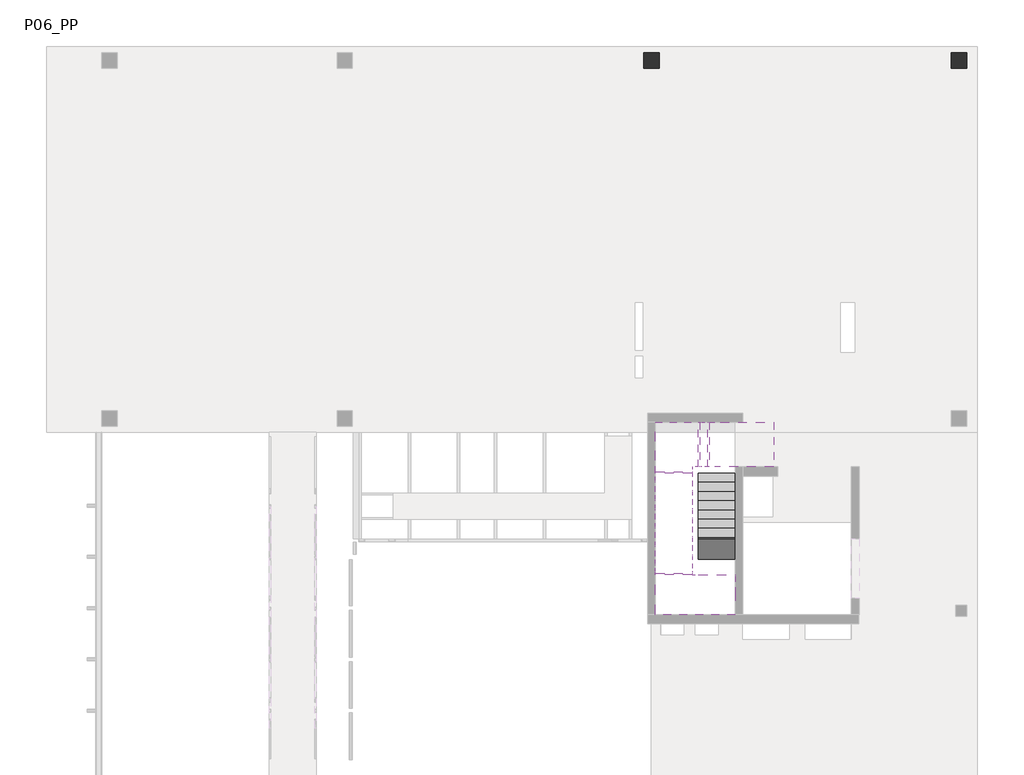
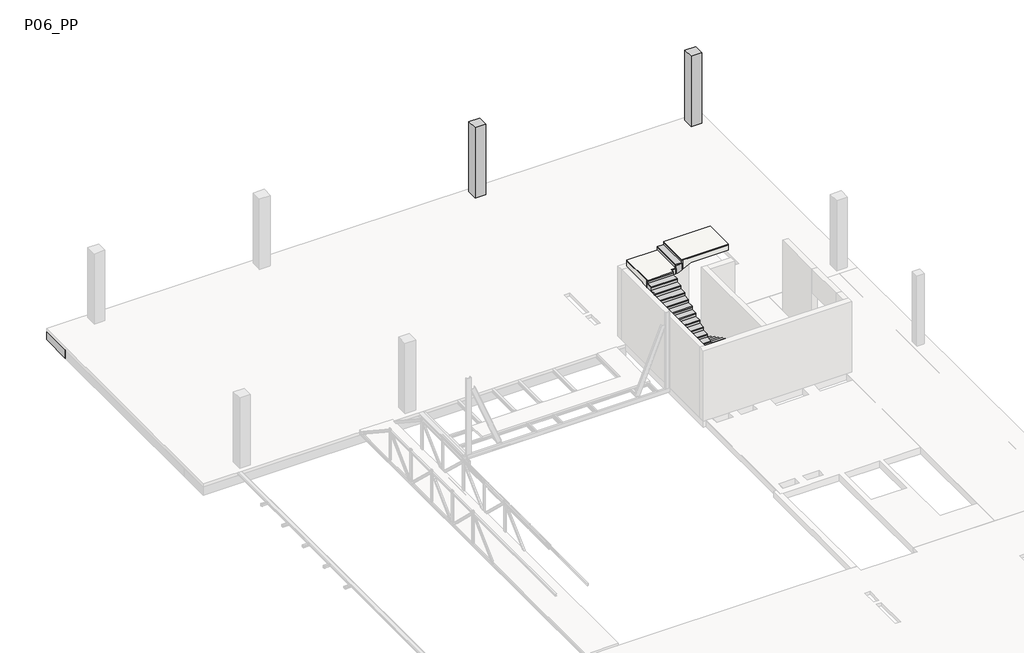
# One storey, part 4 of 4: 8 beams, 3 slabs, 3 stair flights, 2 columns.
"""IFC4 building model written with IfcOpenShell, lengths in millimetres."""

from ifc_helpers import new_model, si_unit, frame, origin, place, context, project, spatial, polyline, outline, extrude, faceted_brep, element, save

model = new_model("IFC4")

# Units and contexts
model_context = context("Model", 3, world=origin())
ifc_project = project(units=[si_unit("LENGTHUNIT", "METRE", prefix="MILLI")], contexts=[model_context])

# Site, building, storey
site = spatial("IfcSite", under=ifc_project)
building = spatial("IfcBuilding", under=site)
storey = spatial("IfcBuildingStorey", under=building, Name="P06_PP", Elevation=29910.0)

# Beams
placement = place(None, origin())
element("IfcBeam", 1, ObjectType="M_Concrete-Rectangular Beam : 1500 x 550mm", at=placement, inside=storey, context=model_context, shape_type="Brep", body=[
    faceted_brep([(-4553.6343046, 26089.4144807, 29360.0), (-33190.2931069, 26089.4144807, 29360.0), (-33190.2931069, 26089.4144807, 29760.0), (-4553.6343046, 26089.4144807, 29760.0), (-33190.2931069, 24589.4144807, 29360.0), (-4553.6343046, 24589.4144807, 29360.0), (-5816.2708415, 24589.4144807, 29360.0), (-6216.2708415, 24589.4144807, 29360.0), (-7482.9375051, 24589.4144807, 29360.0), (-7882.9375051, 24589.4144807, 29360.0), (-9149.6041702, 24589.4144807, 29360.0), (-9549.6041702, 24589.4144807, 29360.0), (-10816.2708336, 24589.4144807, 29360.0), (-11216.2708336, 24589.4144807, 29360.0), (-12482.9374977, 24589.4144807, 29360.0), (-12882.9374977, 24589.4144807, 29360.0), (-14149.604161, 24589.4144807, 29360.0), (-14549.604161, 24589.4144807, 29360.0), (-15816.2708252, 24589.4144807, 29360.0), (-16216.2708252, 24589.4144807, 29360.0), (-17482.9374898, 24589.4144807, 29360.0), (-17882.9374898, 24589.4144807, 29360.0), (-19149.6041539, 24589.4144807, 29360.0), (-19549.6041539, 24589.4144807, 29360.0), (-20816.2708168, 24589.4144807, 29360.0), (-21216.2708168, 24589.4144807, 29360.0), (-22482.9374805, 24589.4144807, 29360.0), (-22882.9374805, 24589.4144807, 29360.0), (-24149.6041453, 24589.4144807, 29360.0), (-24549.6041453, 24589.4144807, 29360.0), (-25816.2708089, 24589.4144807, 29360.0), (-26216.2708089, 24589.4144807, 29360.0), (-27482.9374731, 24589.4144807, 29360.0), (-27882.9374731, 24589.4144807, 29360.0), (-29149.6041367, 24589.4144807, 29360.0), (-29549.6041367, 24589.4144807, 29360.0), (-30816.2708024, 24589.4144807, 29360.0), (-31216.2708024, 24589.4144807, 29360.0), (-32490.2931069, 24589.4144807, 29360.0), (-13265.9144136, 25389.5088736, 29360.0), (-13265.9144127, 25889.5088736, 29360.0), (-13765.9144127, 25889.5088746, 29360.0), (-13765.9144136, 25389.5088746, 29360.0), (-23240.9131369, 25389.5088666, 29360.0), (-23240.9131369, 25889.5088666, 29360.0), (-23740.9131369, 25889.5088666, 29360.0), (-23740.9131369, 25389.5088666, 29360.0), (-30890.9552507, 25389.5088676, 29360.0), (-30890.9552477, 25889.5088676, 29360.0), (-31390.9552477, 25889.5088706, 29360.0), (-31390.9552507, 25389.5088706, 29360.0), (-4553.6343046, 24589.4144807, 29760.0), (-5816.2708415, 24589.4144807, 29760.0), (-6216.2708415, 24589.4144807, 29760.0), (-7482.9375051, 24589.4144807, 29760.0), (-7882.9375051, 24589.4144807, 29760.0), (-9149.6041702, 24589.4144807, 29760.0), (-9549.6041702, 24589.4144807, 29760.0), (-10816.2708336, 24589.4144807, 29760.0), (-11216.2708336, 24589.4144807, 29760.0), (-12482.9374977, 24589.4144807, 29760.0), (-12882.9374977, 24589.4144807, 29760.0), (-14149.604161, 24589.4144807, 29760.0), (-14549.604161, 24589.4144807, 29760.0), (-15816.2708252, 24589.4144807, 29760.0), (-16216.2708252, 24589.4144807, 29760.0), (-17482.9374898, 24589.4144807, 29760.0), (-17882.9374898, 24589.4144807, 29760.0), (-19149.6041539, 24589.4144807, 29760.0), (-19549.6041539, 24589.4144807, 29760.0), (-20816.2708168, 24589.4144807, 29760.0), (-21216.2708168, 24589.4144807, 29760.0), (-22482.9374805, 24589.4144807, 29760.0), (-22882.9374805, 24589.4144807, 29760.0), (-24149.6041453, 24589.4144807, 29760.0), (-24549.6041453, 24589.4144807, 29760.0), (-25816.2708089, 24589.4144807, 29760.0), (-26216.2708089, 24589.4144807, 29760.0), (-27482.9374731, 24589.4144807, 29760.0), (-27882.9374731, 24589.4144807, 29760.0), (-29149.6041367, 24589.4144807, 29760.0), (-29549.6041367, 24589.4144807, 29760.0), (-30816.2708024, 24589.4144807, 29760.0), (-31216.2708024, 24589.4144807, 29760.0), (-32490.2931069, 24589.4144807, 29760.0), (-33190.2931069, 24589.4144807, 29760.0), (-13265.9144136, 25389.5088736, 29610.0), (-13265.9144127, 25889.5088736, 29610.0), (-13765.9144136, 25389.5088746, 29610.0), (-13765.9144127, 25889.5088746, 29610.0), (-23240.9131369, 25389.5088666, 29610.0), (-23240.9131369, 25889.5088666, 29610.0), (-23740.9131369, 25389.5088666, 29610.0), (-23740.9131369, 25889.5088666, 29610.0), (-30890.9552507, 25389.5088676, 29610.0), (-30890.9552477, 25889.5088676, 29610.0), (-31390.9552507, 25389.5088706, 29610.0), (-31390.9552477, 25889.5088706, 29610.0)], [[[0, 1, 2, 3]], [[4, 1, 0, 5, 6, 7, 8, 9, 10, 11, 12, 13, 14, 15, 16, 17, 18, 19, 20, 21, 22, 23, 24, 25, 26, 27, 28, 29, 30, 31, 32, 33, 34, 35, 36, 37, 38], [39, 40, 41, 42], [43, 44, 45, 46], [47, 48, 49, 50]], [[4, 38, 37, 36, 35, 34, 33, 32, 31, 30, 29, 28, 27, 26, 25, 24, 23, 22, 21, 20, 19, 18, 17, 16, 15, 14, 13, 12, 11, 10, 9, 8, 7, 6, 5, 51, 52, 53, 54, 55, 56, 57, 58, 59, 60, 61, 62, 63, 64, 65, 66, 67, 68, 69, 70, 71, 72, 73, 74, 75, 76, 77, 78, 79, 80, 81, 82, 83, 84, 85]], [[1, 4, 85, 2]], [[5, 0, 3, 51]], [[86, 87, 40, 39]], [[88, 86, 39, 42]], [[89, 88, 42, 41]], [[87, 89, 41, 40]], [[87, 86, 88, 89]], [[90, 91, 44, 43]], [[92, 90, 43, 46]], [[93, 92, 46, 45]], [[91, 93, 45, 44]], [[91, 90, 92, 93]], [[94, 95, 48, 47]], [[96, 94, 47, 50]], [[97, 96, 50, 49]], [[95, 97, 49, 48]], [[95, 94, 96, 97]], [[3, 2, 85, 84, 83, 82, 81, 80, 79, 78, 77, 76, 75, 74, 73, 72, 71, 70, 69, 68, 67, 66, 65, 64, 63, 62, 61, 60, 59, 58, 57, 56, 55, 54, 53, 52, 51]]]),
])
element("IfcBeam", 2, ObjectType="M_Concrete-Rectangular Beam : 1640 x 550mm", at=placement, inside=storey, context=model_context, shape_type="Brep", body=[
    faceted_brep([(-4553.6343046, 26089.4144807, 29360.0), (-4553.6343046, 24589.4144807, 29360.0), (-4553.6343046, 15039.4134441, 29360.0), (-4553.6343046, 15039.4134441, 29760.0), (-4553.6343046, 24589.4144807, 29760.0), (-4553.6343046, 26089.4144807, 29760.0), (-2913.6343046, 15039.4134441, 29360.0), (-2913.6343046, 26089.4144807, 29360.0), (-3265.9143674, 25389.5088776, 29360.0), (-3265.9143649, 25889.5088776, 29360.0), (-3765.9143649, 25889.5088801, 29360.0), (-3765.9143674, 25389.5088801, 29360.0), (-2913.6343046, 26089.4144807, 29760.0), (-2913.6343046, 15039.4134441, 29760.0), (-3265.9143674, 25389.5088776, 29610.0), (-3265.9143649, 25889.5088776, 29610.0), (-3765.9143674, 25389.5088801, 29610.0), (-3765.9143649, 25889.5088801, 29610.0)], [[[0, 1, 2, 3, 4, 5]], [[6, 2, 1, 0, 7], [8, 9, 10, 11]], [[6, 7, 12, 13]], [[2, 6, 13, 3]], [[7, 0, 5, 12]], [[14, 15, 9, 8]], [[16, 14, 8, 11]], [[17, 16, 11, 10]], [[15, 17, 10, 9]], [[15, 14, 16, 17]], [[5, 4, 3, 13, 12]]]),
])
element("IfcBeam", 3, ObjectType="M_Concrete-Rectangular Beam : 400 x 550mm", at=placement, inside=storey, context=model_context, shape_type="SweptSolid", body=[
    extrude(outline(polyline([(-14149.604161, 15039.4134441), (-14549.604161, 15039.4134441), (-14549.604161, 24589.4144807), (-14149.604161, 24589.4144807), (-14149.604161, 15039.4134441)])), frame((0.0, 0.0, 29360.0), z_axis=(0.0, 0.0, 1.0), x_axis=(1.0, 0.0, 0.0)), (0.0, 0.0, 1.0), 400.0),
])
element("IfcBeam", 4, ObjectType="M_Concrete-Rectangular Beam : 400 x 550mm", at=placement, inside=storey, context=model_context, shape_type="SweptSolid", body=[
    extrude(outline(polyline([(-12482.9374977, 15039.4134441), (-12882.9374977, 15039.4134441), (-12882.9374977, 24589.4144807), (-12482.9374977, 24589.4144807), (-12482.9374977, 15039.4134441)])), frame((0.0, 0.0, 29360.0), z_axis=(0.0, 0.0, 1.0), x_axis=(1.0, 0.0, 0.0)), (0.0, 0.0, 1.0), 400.0),
])
element("IfcBeam", 5, ObjectType="M_Concrete-Rectangular Beam : 400 x 550mm", at=placement, inside=storey, context=model_context, shape_type="SweptSolid", body=[
    extrude(outline(polyline([(-10816.2708336, 15039.4134441), (-11216.2708336, 15039.4134441), (-11216.2708336, 24589.4144807), (-10816.2708336, 24589.4144807), (-10816.2708336, 15039.4134441)])), frame((0.0, 0.0, 29360.0), z_axis=(0.0, 0.0, 1.0), x_axis=(1.0, 0.0, 0.0)), (0.0, 0.0, 1.0), 400.0),
])
element("IfcBeam", 6, ObjectType="M_Concrete-Rectangular Beam : 400 x 550mm", at=placement, inside=storey, context=model_context, shape_type="SweptSolid", body=[
    extrude(outline(polyline([(-9149.6041702, 15039.4134441), (-9549.6041702, 15039.4134441), (-9549.6041702, 24589.4144807), (-9149.6041702, 24589.4144807), (-9149.6041702, 15039.4134441)])), frame((0.0, 0.0, 29360.0), z_axis=(0.0, 0.0, 1.0), x_axis=(1.0, 0.0, 0.0)), (0.0, 0.0, 1.0), 400.0),
])
element("IfcBeam", 7, ObjectType="M_Concrete-Rectangular Beam : 400 x 550mm", at=placement, inside=storey, context=model_context, shape_type="SweptSolid", body=[
    extrude(outline(polyline([(-7482.9375051, 15039.4134441), (-7882.9375051, 15039.4134441), (-7882.9375051, 24589.4144807), (-7482.9375051, 24589.4144807), (-7482.9375051, 15039.4134441)])), frame((0.0, 0.0, 29360.0), z_axis=(0.0, 0.0, 1.0), x_axis=(1.0, 0.0, 0.0)), (0.0, 0.0, 1.0), 400.0),
])
element("IfcBeam", 8, ObjectType="M_Concrete-Rectangular Beam : 400 x 550mm", at=placement, inside=storey, context=model_context, shape_type="SweptSolid", body=[
    extrude(outline(polyline([(-5816.2708415, 15039.4134441), (-6216.2708415, 15039.4134441), (-6216.2708415, 24589.4144807), (-5816.2708415, 24589.4144807), (-5816.2708415, 15039.4134441)])), frame((0.0, 0.0, 29360.0), z_axis=(0.0, 0.0, 1.0), x_axis=(1.0, 0.0, 0.0)), (0.0, 0.0, 1.0), 400.0),
])

# Columns
element("IfcColumn", 9, ObjectType="Concrete-Rectangular-Column : Pilar_Rectangular-Formigo-500x500", at=placement, inside=storey, context=model_context, shape_type="Brep", body=[
    faceted_brep([(-3265.7676517, 25889.9726341, 29910.0), (-3265.7676524, 25389.9726341, 29910.0), (-3765.7676524, 25389.9726349, 29910.0), (-3765.7676517, 25889.9726349, 29910.0), (-3265.7676517, 25889.9726341, 33360.0), (-3265.7676524, 25389.9726341, 33360.0), (-3265.7676524, 25389.9726341, 33110.0), (-3265.7676517, 25889.9726341, 33110.0), (-3765.7676524, 25389.9726349, 33360.0), (-3765.7676524, 25389.9726349, 33110.0), (-3765.7676517, 25889.9726349, 33360.0), (-3765.7676517, 25889.9726349, 33110.0)], [[[0, 1, 2, 3]], [[4, 5, 6, 1, 0, 7]], [[5, 8, 9, 2, 1, 6]], [[8, 10, 11, 3, 2, 9]], [[10, 4, 7, 0, 3, 11]], [[4, 10, 8, 5]]]),
])
element("IfcColumn", 10, ObjectType="Concrete-Rectangular-Column : Pilar_Rectangular-Formigo-500x500", at=placement, inside=storey, context=model_context, shape_type="Brep", body=[
    faceted_brep([(-13265.3183824, 25889.9726282, 29910.0), (-13265.3183805, 25389.9726282, 29910.0), (-13765.3183805, 25389.9726263, 29910.0), (-13765.3183824, 25889.9726263, 29910.0), (-13265.3183824, 25889.9726282, 33360.0), (-13265.3183805, 25389.9726282, 33360.0), (-13265.3183805, 25389.9726282, 33110.0), (-13265.3183824, 25889.9726282, 33110.0), (-13765.3183805, 25389.9726263, 33360.0), (-13765.3183805, 25389.9726263, 33110.0), (-13765.3183824, 25889.9726263, 33360.0), (-13765.3183824, 25889.9726263, 33110.0)], [[[0, 1, 2, 3]], [[4, 5, 6, 1, 0, 7]], [[5, 8, 9, 2, 1, 6]], [[8, 10, 11, 3, 2, 9]], [[10, 4, 7, 0, 3, 11]], [[4, 10, 8, 5]]]),
])

# Slabs
element("IfcSlab", 11, ObjectType="250mm_Thickness", at=placement, inside=storey, context=model_context, shape_type="SolidModel", body=[
    faceted_brep([(-10790.2146087, 8864.8932827, 31829.2307692), (-11990.2146087, 8864.8932827, 31829.2307692), (-11990.2146087, 8914.8932827, 31829.2307692), (-12190.3216429, 8914.8932827, 31829.2307692), (-12190.3216429, 8964.8932827, 31829.2307692), (-13390.3216429, 8964.8932827, 31829.2307692), (-13390.3216429, 8914.8932827, 31829.2307692), (-13390.3216429, 7614.8960687, 31829.2307692), (-10790.2146087, 7614.8960687, 31829.2307692), (-10790.2146087, 8503.8580206, 31829.2307692), (-10790.2146087, 8864.8932827, 31673.4615385), (-10790.2146087, 8864.8932827, 31391.7701524), (-11990.2146087, 8864.8932827, 31391.7701524), (-11990.2146087, 8864.8932827, 31579.2307692), (-11990.2146087, 8864.8932827, 31673.4615385), (-11990.2146087, 8914.8932827, 31579.2307692), (-12190.3216429, 8914.8932827, 31579.2307692), (-12190.3216429, 8964.8932827, 31579.2307692), (-13390.3216429, 8964.8932827, 31579.2307692), (-13390.3216429, 8914.8932827, 31579.2307692), (-13390.3216429, 7614.8960687, 31579.2307692), (-10790.2146087, 7614.8960687, 31579.2307692), (-10790.2146087, 8503.8580206, 31579.2307692), (-11990.2146087, 8503.8580206, 31579.2307692)], [[[0, 1, 2, 3, 4, 5, 6, 7, 8, 9]], [[1, 0, 10, 11, 12, 13, 14]], [[2, 1, 14, 13, 15]], [[3, 2, 15, 16]], [[4, 3, 16, 17]], [[5, 4, 17, 18]], [[6, 5, 18, 19]], [[7, 6, 19, 20]], [[8, 7, 20, 21]], [[11, 10, 0, 9, 8, 21, 22]], [[23, 22, 21, 20, 19, 18, 17, 16, 15, 13]], [[22, 23, 12, 11]], [[23, 13, 12]]]),
    extrude(outline(polyline([(-10790.2146087, 8914.8932827), (-10790.2146087, 7614.8960687), (-13390.3216429, 7614.8960687), (-13390.3216429, 8914.8932827), (-12190.3216429, 8914.8932827), (-11990.2146087, 8914.8932827), (-10790.2146087, 8914.8932827)])), frame((0.0, 0.0, 31829.2307692), z_axis=(0.0, 0.0, 1.0), x_axis=(1.0, 0.0, 0.0)), (0.0, 0.0, 1.0), 50.0),
])
element("IfcSlab", 12, ObjectType="250mm_Thickness", at=placement, inside=storey, context=model_context, shape_type="SolidModel", body=[
    faceted_brep([(-13390.3216429, 12264.8932827, 33698.4615385), (-12190.3216429, 12264.8932827, 33698.4615385), (-12190.3216429, 12414.8934136, 33698.4615385), (-11990.2146087, 12414.8934136, 33698.4615385), (-11940.2146087, 12414.8934136, 33698.4615385), (-11940.2146087, 13864.8960687, 33698.4615385), (-11990.2146087, 13864.8960687, 33698.4615385), (-13390.3216429, 13864.8960687, 33698.4615385), (-13390.3216429, 12625.9285447, 33698.4615385), (-13390.3216429, 12264.8932827, 33542.6923077), (-13390.3216429, 12264.8932827, 33261.0009216), (-12190.3216429, 12264.8932827, 33261.0009216), (-12190.3216429, 12264.8932827, 33542.6923077), (-12190.3216429, 12625.9285447, 33448.4615385), (-12190.3216429, 12414.8934136, 33448.4615385), (-11990.2146087, 12414.8934136, 33448.4615385), (-11940.2146087, 12414.8934136, 33448.4615385), (-11940.2146087, 13864.8960687, 33448.4615385), (-11990.2146087, 13864.8960687, 33448.4615385), (-13390.3216429, 13864.8960687, 33448.4615385), (-13390.3216429, 12625.9285447, 33448.4615385)], [[[0, 1, 2, 3, 4, 5, 6, 7, 8]], [[1, 0, 9, 10, 11, 12]], [[2, 1, 12, 11, 13, 14]], [[3, 2, 14, 15]], [[4, 3, 15, 16]], [[5, 4, 16, 17]], [[6, 5, 17, 18]], [[7, 6, 18, 19]], [[10, 9, 0, 8, 7, 19, 20]], [[13, 20, 19, 18, 17, 16, 15, 14]], [[20, 13, 11, 10]]]),
    extrude(outline(polyline([(-13390.3216429, 12214.8932827), (-13390.3216429, 13864.8960687), (-11990.2146087, 13864.8960687), (-11990.2146087, 12414.8934136), (-12190.3216429, 12414.8934136), (-12190.3216429, 12214.8932827), (-13390.3216429, 12214.8932827)])), frame((0.0, 0.0, 33698.4615385), z_axis=(0.0, 0.0, 1.0), x_axis=(1.0, 0.0, 0.0)), (0.0, 0.0, 1.0), 50.0),
])
element("IfcSlab", 13, ObjectType="250mm_Thickness", at=placement, inside=storey, context=model_context, shape_type="SolidModel", body=[
    faceted_brep([(-11640.2146087, 13864.8960687, 34010.0), (-11640.2146087, 12414.8934136, 34010.0), (-11279.1793466, 12414.8934136, 34010.0), (-9540.5635412, 12414.8934136, 34010.0), (-9540.5635412, 13864.8960687, 34010.0), (-11279.1793466, 13864.8960687, 34010.0), (-11640.2146087, 12414.8934136, 33854.2307692), (-11640.2146087, 12414.8934136, 33572.5393832), (-11279.1793466, 12414.8934136, 33760.0), (-9540.5635412, 12414.8934136, 33760.0), (-9540.5635412, 13864.8960687, 33760.0), (-11640.2146087, 13864.8960687, 33572.5393832), (-11640.2146087, 13864.8960687, 33854.2307692), (-11279.1793466, 13864.8960687, 33760.0)], [[[0, 1, 2, 3, 4, 5]], [[1, 6, 7, 8, 9, 3, 2]], [[4, 3, 9, 10]], [[11, 12, 0, 5, 4, 10, 13]], [[8, 13, 10, 9]], [[1, 0, 12, 11, 7, 6]], [[13, 8, 7, 11]]]),
    extrude(outline(polyline([(-11690.2146087, 13864.8960687), (-9540.5635412, 13864.8960687), (-9540.5635412, 12414.8934136), (-11690.2146087, 12414.8934136), (-11690.2146087, 13864.8960687)])), frame((0.0, 0.0, 34010.0), z_axis=(0.0, 0.0, 1.0), x_axis=(1.0, 0.0, 0.0)), (0.0, 0.0, 1.0), 50.0),
])

# Stair flights
element("IfcStairFlight", 14, ObjectType="250mm Depth", at=placement, inside=storey, context=model_context, shape_type="SolidModel", body=[
    faceted_brep([(-10790.2146087, 11864.8932827, 30115.7692308), (-10790.2146087, 12164.8932827, 30115.7692308), (-11990.2146087, 12164.8932827, 30115.7692308), (-11990.2146087, 11864.8932827, 30115.7692308), (-10790.2146087, 11864.8932827, 30010.0), (-10790.2146087, 12164.8932827, 30010.0), (-11990.2146087, 12164.8932827, 30010.0), (-11990.2146087, 11864.8932827, 30010.0), (-10790.2146087, 11564.8932827, 30271.5384615), (-10790.2146087, 11864.8932827, 30271.5384615), (-11990.2146087, 11864.8932827, 30271.5384615), (-11990.2146087, 11564.8932827, 30271.5384615), (-10790.2146087, 11564.8932827, 30010.0), (-11990.2146087, 11564.8932827, 30010.0), (-10790.2146087, 11264.8932827, 30427.3076923), (-10790.2146087, 11564.8932827, 30427.3076923), (-11990.2146087, 11564.8932827, 30427.3076923), (-11990.2146087, 11264.8932827, 30427.3076923), (-10790.2146087, 11264.8932827, 30145.6163062), (-10790.2146087, 11526.0802429, 30010.0), (-11990.2146087, 11526.0802429, 30010.0), (-11990.2146087, 11264.8932827, 30145.6163062), (-10790.2146087, 10964.8932827, 30583.0769231), (-10790.2146087, 11264.8932827, 30583.0769231), (-11990.2146087, 11264.8932827, 30583.0769231), (-11990.2146087, 10964.8932827, 30583.0769231), (-10790.2146087, 10964.8932827, 30301.385537), (-11990.2146087, 10964.8932827, 30301.385537), (-10790.2146087, 10664.8932827, 30738.8461538), (-10790.2146087, 10964.8932827, 30738.8461538), (-11990.2146087, 10964.8932827, 30738.8461538), (-11990.2146087, 10664.8932827, 30738.8461538), (-10790.2146087, 10664.8932827, 30457.1547678), (-11990.2146087, 10664.8932827, 30457.1547678), (-10790.2146087, 10364.8932827, 30894.6153846), (-10790.2146087, 10664.8932827, 30894.6153846), (-11990.2146087, 10664.8932827, 30894.6153846), (-11990.2146087, 10364.8932827, 30894.6153846), (-10790.2146087, 10364.8932827, 30612.9239986), (-11990.2146087, 10364.8932827, 30612.9239986), (-10790.2146087, 10064.8932827, 31050.3846154), (-10790.2146087, 10364.8932827, 31050.3846154), (-11990.2146087, 10364.8932827, 31050.3846154), (-11990.2146087, 10064.8932827, 31050.3846154), (-10790.2146087, 10064.8932827, 30768.6932293), (-11990.2146087, 10064.8932827, 30768.6932293), (-10790.2146087, 9764.8932827, 31206.1538462), (-10790.2146087, 10064.8932827, 31206.1538462), (-11990.2146087, 10064.8932827, 31206.1538462), (-11990.2146087, 9764.8932827, 31206.1538462), (-10790.2146087, 9764.8932827, 30924.4624601), (-11990.2146087, 9764.8932827, 30924.4624601), (-10790.2146087, 9464.8932827, 31361.9230769), (-10790.2146087, 9764.8932827, 31361.9230769), (-11990.2146087, 9764.8932827, 31361.9230769), (-11990.2146087, 9464.8932827, 31361.9230769), (-10790.2146087, 9464.8932827, 31080.2316909), (-11990.2146087, 9464.8932827, 31080.2316909), (-10790.2146087, 9164.8932827, 31517.6923077), (-10790.2146087, 9464.8932827, 31517.6923077), (-11990.2146087, 9464.8932827, 31517.6923077), (-11990.2146087, 9164.8932827, 31517.6923077), (-10790.2146087, 9164.8932827, 31236.0009216), (-11990.2146087, 9164.8932827, 31236.0009216), (-10790.2146087, 9164.8932827, 31673.4615385), (-11990.2146087, 9164.8932827, 31673.4615385), (-11990.2146087, 8914.8932827, 31673.4615385), (-11990.2146087, 8864.8932827, 31673.4615385), (-10790.2146087, 8864.8932827, 31673.4615385), (-10790.2146087, 8914.8932827, 31673.4615385), (-10790.2146087, 8864.8932827, 31391.7701524), (-10790.2146087, 8914.8932827, 31365.8086139), (-11990.2146087, 8864.8932827, 31391.7701524), (-11990.2146087, 8864.8932827, 31579.2307692)], [[[0, 1, 2, 3]], [[1, 0, 4, 5]], [[2, 1, 5, 6]], [[3, 2, 6, 7]], [[8, 9, 10, 11]], [[4, 0, 9, 8, 12]], [[0, 3, 10, 9]], [[3, 7, 13, 11, 10]], [[14, 15, 16, 17]], [[12, 8, 15, 14, 18, 19]], [[8, 11, 16, 15]], [[11, 13, 20, 21, 17, 16]], [[22, 23, 24, 25]], [[23, 22, 26, 18, 14]], [[14, 17, 24, 23]], [[25, 24, 17, 21, 27]], [[28, 29, 30, 31]], [[29, 28, 32, 26, 22]], [[22, 25, 30, 29]], [[31, 30, 25, 27, 33]], [[34, 35, 36, 37]], [[35, 34, 38, 32, 28]], [[28, 31, 36, 35]], [[37, 36, 31, 33, 39]], [[40, 41, 42, 43]], [[41, 40, 44, 38, 34]], [[34, 37, 42, 41]], [[43, 42, 37, 39, 45]], [[46, 47, 48, 49]], [[47, 46, 50, 44, 40]], [[40, 43, 48, 47]], [[49, 48, 43, 45, 51]], [[52, 53, 54, 55]], [[53, 52, 56, 50, 46]], [[46, 49, 54, 53]], [[55, 54, 49, 51, 57]], [[58, 59, 60, 61]], [[59, 58, 62, 56, 52]], [[52, 55, 60, 59]], [[61, 60, 55, 57, 63]], [[64, 65, 66, 67, 68, 69]], [[58, 64, 69, 68, 70, 71, 62]], [[58, 61, 65, 64]], [[65, 61, 63, 72, 73, 67, 66]], [[68, 67, 73, 72, 70]], [[5, 4, 12, 19, 20, 13, 7, 6]], [[20, 19, 18, 26, 32, 38, 44, 50, 56, 62, 71, 70, 72, 63, 57, 51, 45, 39, 33, 27, 21]]]),
    extrude(outline(polyline([(-11990.2146087, 12164.8932827), (-11990.2146087, 12214.8932827), (-10790.2146087, 12214.8932827), (-10790.2146087, 12164.8932827), (-11990.2146087, 12164.8932827)])), frame((0.0, 0.0, 30010.0), z_axis=(0.0, 0.0, 1.0), x_axis=(1.0, 0.0, 0.0)), (0.0, 0.0, 1.0), 105.7692308),
    extrude(outline(polyline([(-10790.2146087, 11914.8932827), (-11990.2146087, 11914.8932827), (-11990.2146087, 12214.8932827), (-10790.2146087, 12214.8932827), (-10790.2146087, 11914.8932827)])), frame((0.0, 0.0, 30115.7692308), z_axis=(0.0, 0.0, 1.0), x_axis=(1.0, 0.0, 0.0)), (0.0, 0.0, 1.0), 50.0),
    extrude(outline(polyline([(-11990.2146087, 11864.8932827), (-11990.2146087, 11914.8932827), (-10790.2146087, 11914.8932827), (-10790.2146087, 11864.8932827), (-11990.2146087, 11864.8932827)])), frame((0.0, 0.0, 30115.7692308), z_axis=(0.0, 0.0, 1.0), x_axis=(1.0, 0.0, 0.0)), (0.0, 0.0, 1.0), 155.7692308),
    extrude(outline(polyline([(-10790.2146087, 11614.8932827), (-11990.2146087, 11614.8932827), (-11990.2146087, 11914.8932827), (-10790.2146087, 11914.8932827), (-10790.2146087, 11614.8932827)])), frame((0.0, 0.0, 30271.5384615), z_axis=(0.0, 0.0, 1.0), x_axis=(1.0, 0.0, 0.0)), (0.0, 0.0, 1.0), 50.0),
    extrude(outline(polyline([(-11990.2146087, 11564.8932827), (-11990.2146087, 11614.8932827), (-10790.2146087, 11614.8932827), (-10790.2146087, 11564.8932827), (-11990.2146087, 11564.8932827)])), frame((0.0, 0.0, 30271.5384615), z_axis=(0.0, 0.0, 1.0), x_axis=(1.0, 0.0, 0.0)), (0.0, 0.0, 1.0), 155.7692308),
    extrude(outline(polyline([(-10790.2146087, 11314.8932827), (-11990.2146087, 11314.8932827), (-11990.2146087, 11614.8932827), (-10790.2146087, 11614.8932827), (-10790.2146087, 11314.8932827)])), frame((0.0, 0.0, 30427.3076923), z_axis=(0.0, 0.0, 1.0), x_axis=(1.0, 0.0, 0.0)), (0.0, 0.0, 1.0), 50.0),
    extrude(outline(polyline([(-11990.2146087, 11264.8932827), (-11990.2146087, 11314.8932827), (-10790.2146087, 11314.8932827), (-10790.2146087, 11264.8932827), (-11990.2146087, 11264.8932827)])), frame((0.0, 0.0, 30427.3076923), z_axis=(0.0, 0.0, 1.0), x_axis=(1.0, 0.0, 0.0)), (0.0, 0.0, 1.0), 155.7692308),
    extrude(outline(polyline([(-10790.2146087, 11014.8932827), (-11990.2146087, 11014.8932827), (-11990.2146087, 11314.8932827), (-10790.2146087, 11314.8932827), (-10790.2146087, 11014.8932827)])), frame((0.0, 0.0, 30583.0769231), z_axis=(0.0, 0.0, 1.0), x_axis=(1.0, 0.0, 0.0)), (0.0, 0.0, 1.0), 50.0),
    extrude(outline(polyline([(-11990.2146087, 10964.8932827), (-11990.2146087, 11014.8932827), (-10790.2146087, 11014.8932827), (-10790.2146087, 10964.8932827), (-11990.2146087, 10964.8932827)])), frame((0.0, 0.0, 30583.0769231), z_axis=(0.0, 0.0, 1.0), x_axis=(1.0, 0.0, 0.0)), (0.0, 0.0, 1.0), 155.7692308),
    extrude(outline(polyline([(-10790.2146087, 10714.8932827), (-11990.2146087, 10714.8932827), (-11990.2146087, 11014.8932827), (-10790.2146087, 11014.8932827), (-10790.2146087, 10714.8932827)])), frame((0.0, 0.0, 30738.8461538), z_axis=(0.0, 0.0, 1.0), x_axis=(1.0, 0.0, 0.0)), (0.0, 0.0, 1.0), 50.0),
    extrude(outline(polyline([(-11990.2146087, 10664.8932827), (-11990.2146087, 10714.8932827), (-10790.2146087, 10714.8932827), (-10790.2146087, 10664.8932827), (-11990.2146087, 10664.8932827)])), frame((0.0, 0.0, 30738.8461538), z_axis=(0.0, 0.0, 1.0), x_axis=(1.0, 0.0, 0.0)), (0.0, 0.0, 1.0), 155.7692308),
    extrude(outline(polyline([(-10790.2146087, 10414.8932827), (-11990.2146087, 10414.8932827), (-11990.2146087, 10714.8932827), (-10790.2146087, 10714.8932827), (-10790.2146087, 10414.8932827)])), frame((0.0, 0.0, 30894.6153846), z_axis=(0.0, 0.0, 1.0), x_axis=(1.0, 0.0, 0.0)), (0.0, 0.0, 1.0), 50.0),
    extrude(outline(polyline([(-11990.2146087, 10364.8932827), (-11990.2146087, 10414.8932827), (-10790.2146087, 10414.8932827), (-10790.2146087, 10364.8932827), (-11990.2146087, 10364.8932827)])), frame((0.0, 0.0, 30894.6153846), z_axis=(0.0, 0.0, 1.0), x_axis=(1.0, 0.0, 0.0)), (0.0, 0.0, 1.0), 155.7692308),
    extrude(outline(polyline([(-10790.2146087, 10114.8932827), (-11990.2146087, 10114.8932827), (-11990.2146087, 10414.8932827), (-10790.2146087, 10414.8932827), (-10790.2146087, 10114.8932827)])), frame((0.0, 0.0, 31050.3846154), z_axis=(0.0, 0.0, 1.0), x_axis=(1.0, 0.0, 0.0)), (0.0, 0.0, 1.0), 50.0),
    extrude(outline(polyline([(-11990.2146087, 10064.8932827), (-11990.2146087, 10114.8932827), (-10790.2146087, 10114.8932827), (-10790.2146087, 10064.8932827), (-11990.2146087, 10064.8932827)])), frame((0.0, 0.0, 31050.3846154), z_axis=(0.0, 0.0, 1.0), x_axis=(1.0, 0.0, 0.0)), (0.0, 0.0, 1.0), 155.7692308),
    extrude(outline(polyline([(-10790.2146087, 9814.8932827), (-11990.2146087, 9814.8932827), (-11990.2146087, 10114.8932827), (-10790.2146087, 10114.8932827), (-10790.2146087, 9814.8932827)])), frame((0.0, 0.0, 31206.1538462), z_axis=(0.0, 0.0, 1.0), x_axis=(1.0, 0.0, 0.0)), (0.0, 0.0, 1.0), 50.0),
    extrude(outline(polyline([(-11990.2146087, 9764.8932827), (-11990.2146087, 9814.8932827), (-10790.2146087, 9814.8932827), (-10790.2146087, 9764.8932827), (-11990.2146087, 9764.8932827)])), frame((0.0, 0.0, 31206.1538462), z_axis=(0.0, 0.0, 1.0), x_axis=(1.0, 0.0, 0.0)), (0.0, 0.0, 1.0), 155.7692308),
    extrude(outline(polyline([(-10790.2146087, 9514.8932827), (-11990.2146087, 9514.8932827), (-11990.2146087, 9814.8932827), (-10790.2146087, 9814.8932827), (-10790.2146087, 9514.8932827)])), frame((0.0, 0.0, 31361.9230769), z_axis=(0.0, 0.0, 1.0), x_axis=(1.0, 0.0, 0.0)), (0.0, 0.0, 1.0), 50.0),
    extrude(outline(polyline([(-11990.2146087, 9464.8932827), (-11990.2146087, 9514.8932827), (-10790.2146087, 9514.8932827), (-10790.2146087, 9464.8932827), (-11990.2146087, 9464.8932827)])), frame((0.0, 0.0, 31361.9230769), z_axis=(0.0, 0.0, 1.0), x_axis=(1.0, 0.0, 0.0)), (0.0, 0.0, 1.0), 155.7692308),
    extrude(outline(polyline([(-10790.2146087, 9214.8932827), (-11990.2146087, 9214.8932827), (-11990.2146087, 9514.8932827), (-10790.2146087, 9514.8932827), (-10790.2146087, 9214.8932827)])), frame((0.0, 0.0, 31517.6923077), z_axis=(0.0, 0.0, 1.0), x_axis=(1.0, 0.0, 0.0)), (0.0, 0.0, 1.0), 50.0),
    extrude(outline(polyline([(-11990.2146087, 9164.8932827), (-11990.2146087, 9214.8932827), (-10790.2146087, 9214.8932827), (-10790.2146087, 9164.8932827), (-11990.2146087, 9164.8932827)])), frame((0.0, 0.0, 31517.6923077), z_axis=(0.0, 0.0, 1.0), x_axis=(1.0, 0.0, 0.0)), (0.0, 0.0, 1.0), 155.7692308),
    extrude(outline(polyline([(-11990.2146087, 8864.8932827), (-11990.2146087, 8914.8932827), (-10790.2146087, 8914.8932827), (-10790.2146087, 8864.8932827), (-11990.2146087, 8864.8932827)])), frame((0.0, 0.0, 31673.4615385), z_axis=(0.0, 0.0, 1.0), x_axis=(1.0, 0.0, 0.0)), (0.0, 0.0, 1.0), 155.7692308),
    extrude(outline(polyline([(-10790.2146087, 8914.8932827), (-11990.2146087, 8914.8932827), (-11990.2146087, 9214.8932827), (-10790.2146087, 9214.8932827), (-10790.2146087, 8914.8932827)])), frame((0.0, 0.0, 31673.4615385), z_axis=(0.0, 0.0, 1.0), x_axis=(1.0, 0.0, 0.0)), (0.0, 0.0, 1.0), 50.0),
])
element("IfcStairFlight", 15, ObjectType="250mm Depth", at=placement, inside=storey, context=model_context, shape_type="SolidModel", body=[
    faceted_brep([(-13390.3216429, 8964.8932827, 31985.0), (-12190.3216429, 8964.8932827, 31985.0), (-12190.3216429, 9025.9285447, 31985.0), (-12190.3216429, 9264.8932827, 31985.0), (-13390.3216429, 9264.8932827, 31985.0), (-13390.3216429, 9025.9285447, 31985.0), (-13390.3216429, 9264.8932827, 31703.3086139), (-13390.3216429, 9025.9285447, 31579.2307692), (-13390.3216429, 8964.8932827, 31579.2307692), (-13390.3216429, 8964.8932827, 31829.2307692), (-12190.3216429, 8964.8932827, 31579.2307692), (-12190.3216429, 8964.8932827, 31829.2307692), (-12190.3216429, 9025.9285447, 31579.2307692), (-12190.3216429, 9264.8932827, 31703.3086139), (-13390.3216429, 9564.8932827, 32140.7692308), (-13390.3216429, 9264.8932827, 32140.7692308), (-12190.3216429, 9264.8932827, 32140.7692308), (-12190.3216429, 9564.8932827, 32140.7692308), (-13390.3216429, 9564.8932827, 31859.0778447), (-12190.3216429, 9564.8932827, 31859.0778447), (-13390.3216429, 9864.8932827, 32296.5384615), (-13390.3216429, 9564.8932827, 32296.5384615), (-12190.3216429, 9564.8932827, 32296.5384615), (-12190.3216429, 9864.8932827, 32296.5384615), (-13390.3216429, 9864.8932827, 32014.8470755), (-12190.3216429, 9864.8932827, 32014.8470755), (-13390.3216429, 10164.8932827, 32452.3076923), (-13390.3216429, 9864.8932827, 32452.3076923), (-12190.3216429, 9864.8932827, 32452.3076923), (-12190.3216429, 10164.8932827, 32452.3076923), (-13390.3216429, 10164.8932827, 32170.6163062), (-12190.3216429, 10164.8932827, 32170.6163062), (-13390.3216429, 10464.8932827, 32608.0769231), (-13390.3216429, 10164.8932827, 32608.0769231), (-12190.3216429, 10164.8932827, 32608.0769231), (-12190.3216429, 10464.8932827, 32608.0769231), (-13390.3216429, 10464.8932827, 32326.385537), (-12190.3216429, 10464.8932827, 32326.385537), (-13390.3216429, 10764.8932827, 32763.8461538), (-13390.3216429, 10464.8932827, 32763.8461538), (-12190.3216429, 10464.8932827, 32763.8461538), (-12190.3216429, 10764.8932827, 32763.8461538), (-13390.3216429, 10764.8932827, 32482.1547678), (-12190.3216429, 10764.8932827, 32482.1547678), (-13390.3216429, 11064.8932827, 32919.6153846), (-13390.3216429, 10764.8932827, 32919.6153846), (-12190.3216429, 10764.8932827, 32919.6153846), (-12190.3216429, 11064.8932827, 32919.6153846), (-13390.3216429, 11064.8932827, 32637.9239986), (-12190.3216429, 11064.8932827, 32637.9239986), (-13390.3216429, 11364.8932827, 33075.3846154), (-13390.3216429, 11064.8932827, 33075.3846154), (-12190.3216429, 11064.8932827, 33075.3846154), (-12190.3216429, 11364.8932827, 33075.3846154), (-13390.3216429, 11364.8932827, 32793.6932293), (-12190.3216429, 11364.8932827, 32793.6932293), (-13390.3216429, 11664.8932827, 33231.1538462), (-13390.3216429, 11364.8932827, 33231.1538462), (-12190.3216429, 11364.8932827, 33231.1538462), (-12190.3216429, 11664.8932827, 33231.1538462), (-13390.3216429, 11664.8932827, 32949.4624601), (-12190.3216429, 11664.8932827, 32949.4624601), (-13390.3216429, 11964.8932827, 33386.9230769), (-13390.3216429, 11664.8932827, 33386.9230769), (-12190.3216429, 11664.8932827, 33386.9230769), (-12190.3216429, 11964.8932827, 33386.9230769), (-13390.3216429, 11964.8932827, 33105.2316909), (-12190.3216429, 11964.8932827, 33105.2316909), (-13390.3216429, 12214.8932827, 33235.0393832), (-13390.3216429, 12264.8932827, 33261.0009216), (-12190.3216429, 12264.8932827, 33261.0009216), (-13390.3216429, 11964.8932827, 33542.6923077), (-12190.3216429, 11964.8932827, 33542.6923077), (-12190.3216429, 12264.8932827, 33542.6923077), (-13390.3216429, 12264.8932827, 33542.6923077), (-13390.3216429, 12214.8932827, 33542.6923077)], [[[0, 1, 2, 3, 4, 5]], [[4, 6, 7, 8, 9, 0, 5]], [[1, 0, 9, 8, 10, 11]], [[1, 11, 10, 12, 13, 3, 2]], [[14, 15, 16, 17]], [[15, 14, 18, 6, 4]], [[16, 15, 4, 3]], [[17, 16, 3, 13, 19]], [[20, 21, 22, 23]], [[21, 20, 24, 18, 14]], [[22, 21, 14, 17]], [[23, 22, 17, 19, 25]], [[26, 27, 28, 29]], [[27, 26, 30, 24, 20]], [[28, 27, 20, 23]], [[29, 28, 23, 25, 31]], [[32, 33, 34, 35]], [[33, 32, 36, 30, 26]], [[34, 33, 26, 29]], [[35, 34, 29, 31, 37]], [[38, 39, 40, 41]], [[39, 38, 42, 36, 32]], [[40, 39, 32, 35]], [[41, 40, 35, 37, 43]], [[44, 45, 46, 47]], [[45, 44, 48, 42, 38]], [[46, 45, 38, 41]], [[47, 46, 41, 43, 49]], [[50, 51, 52, 53]], [[51, 50, 54, 48, 44]], [[52, 51, 44, 47]], [[53, 52, 47, 49, 55]], [[56, 57, 58, 59]], [[57, 56, 60, 54, 50]], [[58, 57, 50, 53]], [[59, 58, 53, 55, 61]], [[62, 63, 64, 65]], [[63, 62, 66, 60, 56]], [[64, 63, 56, 59]], [[65, 64, 59, 61, 67]], [[12, 7, 6, 18, 24, 30, 36, 42, 48, 54, 60, 66, 68, 69, 70, 67, 61, 55, 49, 43, 37, 31, 25, 19, 13]], [[7, 12, 10, 8]], [[71, 72, 73, 74, 75]], [[62, 71, 75, 74, 69, 68, 66]], [[72, 71, 62, 65]], [[73, 72, 65, 67, 70]], [[74, 73, 70, 69]]]),
    extrude(outline(polyline([(-12190.3216429, 8964.8932827), (-12190.3216429, 8914.8932827), (-13390.3216429, 8914.8932827), (-13390.3216429, 8964.8932827), (-12190.3216429, 8964.8932827)])), frame((0.0, 0.0, 31829.2307692), z_axis=(0.0, 0.0, 1.0), x_axis=(1.0, 0.0, 0.0)), (0.0, 0.0, 1.0), 155.7692308),
    extrude(outline(polyline([(-13390.3216429, 9214.8932827), (-12190.3216429, 9214.8932827), (-12190.3216429, 8914.8932827), (-13390.3216429, 8914.8932827), (-13390.3216429, 9214.8932827)])), frame((0.0, 0.0, 31985.0), z_axis=(0.0, 0.0, 1.0), x_axis=(1.0, 0.0, 0.0)), (0.0, 0.0, 1.0), 50.0),
    extrude(outline(polyline([(-12190.3216429, 9264.8932827), (-12190.3216429, 9214.8932827), (-13390.3216429, 9214.8932827), (-13390.3216429, 9264.8932827), (-12190.3216429, 9264.8932827)])), frame((0.0, 0.0, 31985.0), z_axis=(0.0, 0.0, 1.0), x_axis=(1.0, 0.0, 0.0)), (0.0, 0.0, 1.0), 155.7692308),
    extrude(outline(polyline([(-13390.3216429, 9514.8932827), (-12190.3216429, 9514.8932827), (-12190.3216429, 9214.8932827), (-13390.3216429, 9214.8932827), (-13390.3216429, 9514.8932827)])), frame((0.0, 0.0, 32140.7692308), z_axis=(0.0, 0.0, 1.0), x_axis=(1.0, 0.0, 0.0)), (0.0, 0.0, 1.0), 50.0),
    extrude(outline(polyline([(-12190.3216429, 9564.8932827), (-12190.3216429, 9514.8932827), (-13390.3216429, 9514.8932827), (-13390.3216429, 9564.8932827), (-12190.3216429, 9564.8932827)])), frame((0.0, 0.0, 32140.7692308), z_axis=(0.0, 0.0, 1.0), x_axis=(1.0, 0.0, 0.0)), (0.0, 0.0, 1.0), 155.7692308),
    extrude(outline(polyline([(-13390.3216429, 9814.8932827), (-12190.3216429, 9814.8932827), (-12190.3216429, 9514.8932827), (-13390.3216429, 9514.8932827), (-13390.3216429, 9814.8932827)])), frame((0.0, 0.0, 32296.5384615), z_axis=(0.0, 0.0, 1.0), x_axis=(1.0, 0.0, 0.0)), (0.0, 0.0, 1.0), 50.0),
    extrude(outline(polyline([(-12190.3216429, 9864.8932827), (-12190.3216429, 9814.8932827), (-13390.3216429, 9814.8932827), (-13390.3216429, 9864.8932827), (-12190.3216429, 9864.8932827)])), frame((0.0, 0.0, 32296.5384615), z_axis=(0.0, 0.0, 1.0), x_axis=(1.0, 0.0, 0.0)), (0.0, 0.0, 1.0), 155.7692308),
    extrude(outline(polyline([(-13390.3216429, 10114.8932827), (-12190.3216429, 10114.8932827), (-12190.3216429, 9814.8932827), (-13390.3216429, 9814.8932827), (-13390.3216429, 10114.8932827)])), frame((0.0, 0.0, 32452.3076923), z_axis=(0.0, 0.0, 1.0), x_axis=(1.0, 0.0, 0.0)), (0.0, 0.0, 1.0), 50.0),
    extrude(outline(polyline([(-12190.3216429, 10164.8932827), (-12190.3216429, 10114.8932827), (-13390.3216429, 10114.8932827), (-13390.3216429, 10164.8932827), (-12190.3216429, 10164.8932827)])), frame((0.0, 0.0, 32452.3076923), z_axis=(0.0, 0.0, 1.0), x_axis=(1.0, 0.0, 0.0)), (0.0, 0.0, 1.0), 155.7692308),
    extrude(outline(polyline([(-13390.3216429, 10414.8932827), (-12190.3216429, 10414.8932827), (-12190.3216429, 10114.8932827), (-13390.3216429, 10114.8932827), (-13390.3216429, 10414.8932827)])), frame((0.0, 0.0, 32608.0769231), z_axis=(0.0, 0.0, 1.0), x_axis=(1.0, 0.0, 0.0)), (0.0, 0.0, 1.0), 50.0),
    extrude(outline(polyline([(-12190.3216429, 10464.8932827), (-12190.3216429, 10414.8932827), (-13390.3216429, 10414.8932827), (-13390.3216429, 10464.8932827), (-12190.3216429, 10464.8932827)])), frame((0.0, 0.0, 32608.0769231), z_axis=(0.0, 0.0, 1.0), x_axis=(1.0, 0.0, 0.0)), (0.0, 0.0, 1.0), 155.7692308),
    extrude(outline(polyline([(-13390.3216429, 10714.8932827), (-12190.3216429, 10714.8932827), (-12190.3216429, 10414.8932827), (-13390.3216429, 10414.8932827), (-13390.3216429, 10714.8932827)])), frame((0.0, 0.0, 32763.8461538), z_axis=(0.0, 0.0, 1.0), x_axis=(1.0, 0.0, 0.0)), (0.0, 0.0, 1.0), 50.0),
    extrude(outline(polyline([(-12190.3216429, 10764.8932827), (-12190.3216429, 10714.8932827), (-13390.3216429, 10714.8932827), (-13390.3216429, 10764.8932827), (-12190.3216429, 10764.8932827)])), frame((0.0, 0.0, 32763.8461538), z_axis=(0.0, 0.0, 1.0), x_axis=(1.0, 0.0, 0.0)), (0.0, 0.0, 1.0), 155.7692308),
    extrude(outline(polyline([(-13390.3216429, 11014.8932827), (-12190.3216429, 11014.8932827), (-12190.3216429, 10714.8932827), (-13390.3216429, 10714.8932827), (-13390.3216429, 11014.8932827)])), frame((0.0, 0.0, 32919.6153846), z_axis=(0.0, 0.0, 1.0), x_axis=(1.0, 0.0, 0.0)), (0.0, 0.0, 1.0), 50.0),
    extrude(outline(polyline([(-12190.3216429, 11064.8932827), (-12190.3216429, 11014.8932827), (-13390.3216429, 11014.8932827), (-13390.3216429, 11064.8932827), (-12190.3216429, 11064.8932827)])), frame((0.0, 0.0, 32919.6153846), z_axis=(0.0, 0.0, 1.0), x_axis=(1.0, 0.0, 0.0)), (0.0, 0.0, 1.0), 155.7692308),
    extrude(outline(polyline([(-13390.3216429, 11314.8932827), (-12190.3216429, 11314.8932827), (-12190.3216429, 11014.8932827), (-13390.3216429, 11014.8932827), (-13390.3216429, 11314.8932827)])), frame((0.0, 0.0, 33075.3846154), z_axis=(0.0, 0.0, 1.0), x_axis=(1.0, 0.0, 0.0)), (0.0, 0.0, 1.0), 50.0),
    extrude(outline(polyline([(-12190.3216429, 11364.8932827), (-12190.3216429, 11314.8932827), (-13390.3216429, 11314.8932827), (-13390.3216429, 11364.8932827), (-12190.3216429, 11364.8932827)])), frame((0.0, 0.0, 33075.3846154), z_axis=(0.0, 0.0, 1.0), x_axis=(1.0, 0.0, 0.0)), (0.0, 0.0, 1.0), 155.7692308),
    extrude(outline(polyline([(-13390.3216429, 11614.8932827), (-12190.3216429, 11614.8932827), (-12190.3216429, 11314.8932827), (-13390.3216429, 11314.8932827), (-13390.3216429, 11614.8932827)])), frame((0.0, 0.0, 33231.1538462), z_axis=(0.0, 0.0, 1.0), x_axis=(1.0, 0.0, 0.0)), (0.0, 0.0, 1.0), 50.0),
    extrude(outline(polyline([(-12190.3216429, 11664.8932827), (-12190.3216429, 11614.8932827), (-13390.3216429, 11614.8932827), (-13390.3216429, 11664.8932827), (-12190.3216429, 11664.8932827)])), frame((0.0, 0.0, 33231.1538462), z_axis=(0.0, 0.0, 1.0), x_axis=(1.0, 0.0, 0.0)), (0.0, 0.0, 1.0), 155.7692308),
    extrude(outline(polyline([(-13390.3216429, 11914.8932827), (-12190.3216429, 11914.8932827), (-12190.3216429, 11614.8932827), (-13390.3216429, 11614.8932827), (-13390.3216429, 11914.8932827)])), frame((0.0, 0.0, 33386.9230769), z_axis=(0.0, 0.0, 1.0), x_axis=(1.0, 0.0, 0.0)), (0.0, 0.0, 1.0), 50.0),
    extrude(outline(polyline([(-12190.3216429, 11964.8932827), (-12190.3216429, 11914.8932827), (-13390.3216429, 11914.8932827), (-13390.3216429, 11964.8932827), (-12190.3216429, 11964.8932827)])), frame((0.0, 0.0, 33386.9230769), z_axis=(0.0, 0.0, 1.0), x_axis=(1.0, 0.0, 0.0)), (0.0, 0.0, 1.0), 155.7692308),
    extrude(outline(polyline([(-12190.3216429, 12264.8932827), (-12190.3216429, 12214.8932827), (-13390.3216429, 12214.8932827), (-13390.3216429, 12264.8932827), (-12190.3216429, 12264.8932827)])), frame((0.0, 0.0, 33542.6923077), z_axis=(0.0, 0.0, 1.0), x_axis=(1.0, 0.0, 0.0)), (0.0, 0.0, 1.0), 155.7692308),
    extrude(outline(polyline([(-13390.3216429, 12214.8932827), (-12190.3216429, 12214.8932827), (-12190.3216429, 11914.8932827), (-13390.3216429, 11914.8932827), (-13390.3216429, 12214.8932827)])), frame((0.0, 0.0, 33542.6923077), z_axis=(0.0, 0.0, 1.0), x_axis=(1.0, 0.0, 0.0)), (0.0, 0.0, 1.0), 50.0),
])
element("IfcStairFlight", 16, ObjectType="250mm Depth", at=placement, inside=storey, context=model_context, shape_type="SolidModel", body=[
    faceted_brep([(-11640.2146087, 13864.8960687, 33854.2307692), (-11690.2146087, 13864.8960687, 33854.2307692), (-11879.1793466, 13864.8960687, 33854.2307692), (-11940.2146087, 13864.8960687, 33854.2307692), (-11940.2146087, 12414.8934136, 33854.2307692), (-11879.1793466, 12414.8934136, 33854.2307692), (-11690.2146087, 12414.8934136, 33854.2307692), (-11640.2146087, 12414.8934136, 33854.2307692), (-11640.2146087, 13864.8960687, 33572.5393832), (-11690.2146087, 13864.8960687, 33546.5778447), (-11940.2146087, 13864.8960687, 33698.4615385), (-11940.2146087, 13864.8960687, 33448.4615385), (-11940.2146087, 12414.8934136, 33448.4615385), (-11940.2146087, 12414.8934136, 33698.4615385), (-11879.1793466, 12414.8934136, 33448.4615385), (-11690.2146087, 12414.8934136, 33546.5778447), (-11640.2146087, 12414.8934136, 33572.5393832), (-11879.1793466, 13864.8960687, 33448.4615385)], [[[0, 1, 2, 3, 4, 5, 6, 7]], [[1, 0, 8, 9]], [[4, 3, 10, 11, 12, 13]], [[4, 13, 12, 14, 15, 6, 5]], [[0, 7, 16, 8]], [[14, 17, 9, 8, 16, 15]], [[17, 14, 12, 11]], [[1, 9, 17, 11, 10, 3, 2]], [[7, 6, 15, 16]]]),
    extrude(outline(polyline([(-11940.2146087, 12414.8934136), (-11990.2146087, 12414.8934136), (-11990.2146087, 13864.8960687), (-11940.2146087, 13864.8960687), (-11940.2146087, 12414.8934136)])), frame((0.0, 0.0, 33698.4615385), z_axis=(0.0, 0.0, 1.0), x_axis=(1.0, 0.0, 0.0)), (0.0, 0.0, 1.0), 155.7692308),
    extrude(outline(polyline([(-11640.2146087, 12414.8934136), (-11690.2146087, 12414.8934136), (-11690.2146087, 13864.8960687), (-11640.2146087, 13864.8960687), (-11640.2146087, 12414.8934136)])), frame((0.0, 0.0, 33854.2307692), z_axis=(0.0, 0.0, 1.0), x_axis=(1.0, 0.0, 0.0)), (0.0, 0.0, 1.0), 155.7692308),
    extrude(outline(polyline([(-11690.2146087, 13864.8960687), (-11690.2146087, 12414.8934136), (-11990.2146087, 12414.8934136), (-11990.2146087, 13864.8960687), (-11690.2146087, 13864.8960687)])), frame((0.0, 0.0, 33854.2307692), z_axis=(0.0, 0.0, 1.0), x_axis=(1.0, 0.0, 0.0)), (0.0, 0.0, 1.0), 50.0),
])

save(model, "model.ifc")
